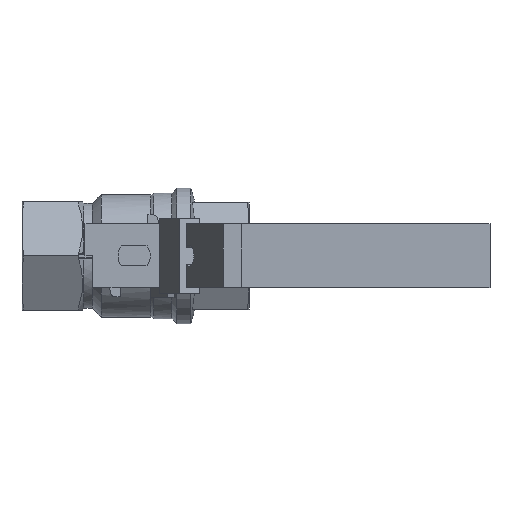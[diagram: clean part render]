
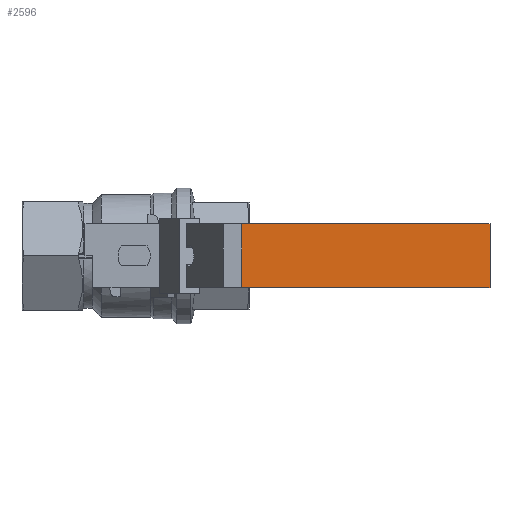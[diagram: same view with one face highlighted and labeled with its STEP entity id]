
A CAD part, top view. The second image highlights one B-rep face of the part: STEP entity #2596.
In plain terms, the highlighted planar face has unit normal (0, 0, 1).
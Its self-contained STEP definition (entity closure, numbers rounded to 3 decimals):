
#1821 = PLANE('',#1822);
#1822 = AXIS2_PLACEMENT_3D('',#1823,#1824,#1825);
#1823 = CARTESIAN_POINT('',(2.258,-0.468,2.186));
#1824 = DIRECTION('',(0.,1.,0.));
#1825 = DIRECTION('',(0.,-0.,1.));
#1875 = PLANE('',#1876);
#1876 = AXIS2_PLACEMENT_3D('',#1877,#1878,#1879);
#1877 = CARTESIAN_POINT('',(2.258,0.468,2.186));
#1878 = DIRECTION('',(0.,1.,0.));
#1879 = DIRECTION('',(0.,-0.,1.));
#2349 = VERTEX_POINT('',#2350);
#2350 = CARTESIAN_POINT('',(6.84,-0.468,3.34));
#2359 = PLANE('',#2360);
#2360 = AXIS2_PLACEMENT_3D('',#2361,#2362,#2363);
#2361 = CARTESIAN_POINT('',(6.84,0.468,3.217));
#2362 = DIRECTION('',(1.,0.,0.));
#2363 = DIRECTION('',(0.,0.,1.));
#2402 = VERTEX_POINT('',#2403);
#2403 = CARTESIAN_POINT('',(6.84,0.468,3.34));
#2424 = EDGE_CURVE('',#2402,#2349,#2425,.T.);
#2425 = SURFACE_CURVE('',#2426,(#2430,#2437),.PCURVE_S1.);
#2426 = LINE('',#2427,#2428);
#2427 = CARTESIAN_POINT('',(6.84,0.468,3.34));
#2428 = VECTOR('',#2429,1.);
#2429 = DIRECTION('',(0.,-1.,0.));
#2430 = PCURVE('',#2359,#2431);
#2431 = DEFINITIONAL_REPRESENTATION('',(#2432),#2436);
#2432 = LINE('',#2433,#2434);
#2433 = CARTESIAN_POINT('',(0.123,0.));
#2434 = VECTOR('',#2435,1.);
#2435 = DIRECTION('',(0.,1.));
#2436 = ( GEOMETRIC_REPRESENTATION_CONTEXT(2) 
PARAMETRIC_REPRESENTATION_CONTEXT() REPRESENTATION_CONTEXT('2D SPACE',''
  ) );
#2437 = PCURVE('',#2438,#2443);
#2438 = PLANE('',#2439);
#2439 = AXIS2_PLACEMENT_3D('',#2440,#2441,#2442);
#2440 = CARTESIAN_POINT('',(5.027,0.468,3.34));
#2441 = DIRECTION('',(0.,0.,1.));
#2442 = DIRECTION('',(-1.,0.,0.));
#2443 = DEFINITIONAL_REPRESENTATION('',(#2444),#2448);
#2444 = LINE('',#2445,#2446);
#2445 = CARTESIAN_POINT('',(-1.813,0.));
#2446 = VECTOR('',#2447,1.);
#2447 = DIRECTION('',(0.,1.));
#2448 = ( GEOMETRIC_REPRESENTATION_CONTEXT(2) 
PARAMETRIC_REPRESENTATION_CONTEXT() REPRESENTATION_CONTEXT('2D SPACE',''
  ) );
#2511 = PLANE('',#2512);
#2512 = AXIS2_PLACEMENT_3D('',#2513,#2514,#2515);
#2513 = CARTESIAN_POINT('',(3.215,0.468,3.217));
#2514 = DIRECTION('',(-1.,0.,0.));
#2515 = DIRECTION('',(0.,0.,-1.));
#2531 = VERTEX_POINT('',#2532);
#2532 = CARTESIAN_POINT('',(3.215,-0.468,3.34));
#2553 = EDGE_CURVE('',#2554,#2531,#2556,.T.);
#2554 = VERTEX_POINT('',#2555);
#2555 = CARTESIAN_POINT('',(3.215,0.468,3.34));
#2556 = SURFACE_CURVE('',#2557,(#2561,#2568),.PCURVE_S1.);
#2557 = LINE('',#2558,#2559);
#2558 = CARTESIAN_POINT('',(3.215,0.468,3.34));
#2559 = VECTOR('',#2560,1.);
#2560 = DIRECTION('',(0.,-1.,0.));
#2561 = PCURVE('',#2511,#2562);
#2562 = DEFINITIONAL_REPRESENTATION('',(#2563),#2567);
#2563 = LINE('',#2564,#2565);
#2564 = CARTESIAN_POINT('',(-0.123,-0.));
#2565 = VECTOR('',#2566,1.);
#2566 = DIRECTION('',(0.,1.));
#2567 = ( GEOMETRIC_REPRESENTATION_CONTEXT(2) 
PARAMETRIC_REPRESENTATION_CONTEXT() REPRESENTATION_CONTEXT('2D SPACE',''
  ) );
#2568 = PCURVE('',#2438,#2569);
#2569 = DEFINITIONAL_REPRESENTATION('',(#2570),#2574);
#2570 = LINE('',#2571,#2572);
#2571 = CARTESIAN_POINT('',(1.813,0.));
#2572 = VECTOR('',#2573,1.);
#2573 = DIRECTION('',(0.,1.));
#2574 = ( GEOMETRIC_REPRESENTATION_CONTEXT(2) 
PARAMETRIC_REPRESENTATION_CONTEXT() REPRESENTATION_CONTEXT('2D SPACE',''
  ) );
#2596 = ADVANCED_FACE('',(#2597),#2438,.T.);
#2597 = FACE_BOUND('',#2598,.T.);
#2598 = EDGE_LOOP('',(#2599,#2620,#2621,#2642));
#2599 = ORIENTED_EDGE('',*,*,#2600,.T.);
#2600 = EDGE_CURVE('',#2531,#2349,#2601,.T.);
#2601 = SURFACE_CURVE('',#2602,(#2606,#2613),.PCURVE_S1.);
#2602 = LINE('',#2603,#2604);
#2603 = CARTESIAN_POINT('',(6.84,-0.468,3.34));
#2604 = VECTOR('',#2605,1.);
#2605 = DIRECTION('',(1.,0.,0.));
#2606 = PCURVE('',#2438,#2607);
#2607 = DEFINITIONAL_REPRESENTATION('',(#2608),#2612);
#2608 = LINE('',#2609,#2610);
#2609 = CARTESIAN_POINT('',(-1.813,0.935));
#2610 = VECTOR('',#2611,1.);
#2611 = DIRECTION('',(-1.,0.));
#2612 = ( GEOMETRIC_REPRESENTATION_CONTEXT(2) 
PARAMETRIC_REPRESENTATION_CONTEXT() REPRESENTATION_CONTEXT('2D SPACE',''
  ) );
#2613 = PCURVE('',#1821,#2614);
#2614 = DEFINITIONAL_REPRESENTATION('',(#2615),#2619);
#2615 = LINE('',#2616,#2617);
#2616 = CARTESIAN_POINT('',(1.154,4.582));
#2617 = VECTOR('',#2618,1.);
#2618 = DIRECTION('',(0.,1.));
#2619 = ( GEOMETRIC_REPRESENTATION_CONTEXT(2) 
PARAMETRIC_REPRESENTATION_CONTEXT() REPRESENTATION_CONTEXT('2D SPACE',''
  ) );
#2620 = ORIENTED_EDGE('',*,*,#2424,.F.);
#2621 = ORIENTED_EDGE('',*,*,#2622,.T.);
#2622 = EDGE_CURVE('',#2402,#2554,#2623,.T.);
#2623 = SURFACE_CURVE('',#2624,(#2628,#2635),.PCURVE_S1.);
#2624 = LINE('',#2625,#2626);
#2625 = CARTESIAN_POINT('',(6.84,0.468,3.34));
#2626 = VECTOR('',#2627,1.);
#2627 = DIRECTION('',(-1.,0.,0.));
#2628 = PCURVE('',#2438,#2629);
#2629 = DEFINITIONAL_REPRESENTATION('',(#2630),#2634);
#2630 = LINE('',#2631,#2632);
#2631 = CARTESIAN_POINT('',(-1.813,0.));
#2632 = VECTOR('',#2633,1.);
#2633 = DIRECTION('',(1.,0.));
#2634 = ( GEOMETRIC_REPRESENTATION_CONTEXT(2) 
PARAMETRIC_REPRESENTATION_CONTEXT() REPRESENTATION_CONTEXT('2D SPACE',''
  ) );
#2635 = PCURVE('',#1875,#2636);
#2636 = DEFINITIONAL_REPRESENTATION('',(#2637),#2641);
#2637 = LINE('',#2638,#2639);
#2638 = CARTESIAN_POINT('',(1.154,4.582));
#2639 = VECTOR('',#2640,1.);
#2640 = DIRECTION('',(0.,-1.));
#2641 = ( GEOMETRIC_REPRESENTATION_CONTEXT(2) 
PARAMETRIC_REPRESENTATION_CONTEXT() REPRESENTATION_CONTEXT('2D SPACE',''
  ) );
#2642 = ORIENTED_EDGE('',*,*,#2553,.T.);
